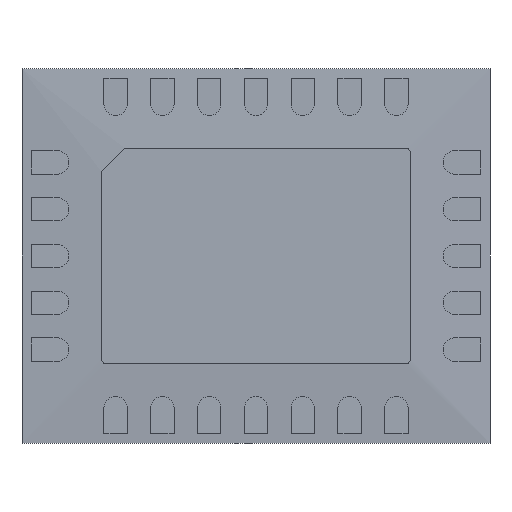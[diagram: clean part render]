
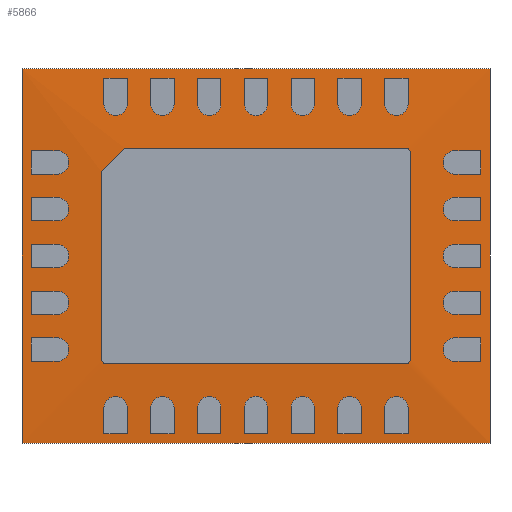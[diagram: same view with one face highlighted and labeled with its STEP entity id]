
A CAD part, front view. The second image highlights one B-rep face of the part: STEP entity #5866.
In plain terms, the highlighted planar face has unit normal (0, -1, 0).
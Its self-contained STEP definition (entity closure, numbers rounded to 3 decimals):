
#5640 = CARTESIAN_POINT ( 'NONE',  ( -2.5, 0.05, -2. ) ) ;
#5641 = VERTEX_POINT ( 'NONE', #5640 ) ;
#5642 = CARTESIAN_POINT ( 'NONE',  ( -2.5, 0.05, 2. ) ) ;
#5643 = VERTEX_POINT ( 'NONE', #5642 ) ;
#5644 = CARTESIAN_POINT ( 'NONE',  ( -2.5, 0.05, 2. ) ) ;
#5645 = DIRECTION ( 'NONE',  ( 0., 0., 1. ) ) ;
#5646 = VECTOR ( 'NONE', #5645, 1000. ) ;
#5647 = LINE ( 'NONE', #5644, #5646 ) ;
#5648 = EDGE_CURVE ( 'NONE', #5641, #5643, #5647, .T. ) ;
#5680 = CARTESIAN_POINT ( 'NONE',  ( 2.5, 0.05, 2. ) ) ;
#5681 = VERTEX_POINT ( 'NONE', #5680 ) ;
#5682 = CARTESIAN_POINT ( 'NONE',  ( 2.5, 0.05, 2. ) ) ;
#5683 = DIRECTION ( 'NONE',  ( 1., 0., 0. ) ) ;
#5684 = VECTOR ( 'NONE', #5683, 1000. ) ;
#5685 = LINE ( 'NONE', #5682, #5684 ) ;
#5686 = EDGE_CURVE ( 'NONE', #5643, #5681, #5685, .T. ) ;
#5711 = CARTESIAN_POINT ( 'NONE',  ( 2.5, 0.05, -2. ) ) ;
#5712 = VERTEX_POINT ( 'NONE', #5711 ) ;
#5713 = CARTESIAN_POINT ( 'NONE',  ( 2.5, 0.05, 2. ) ) ;
#5714 = DIRECTION ( 'NONE',  ( 0., 0., -1. ) ) ;
#5715 = VECTOR ( 'NONE', #5714, 1000. ) ;
#5716 = LINE ( 'NONE', #5713, #5715 ) ;
#5717 = EDGE_CURVE ( 'NONE', #5681, #5712, #5716, .T. ) ;
#5742 = CARTESIAN_POINT ( 'NONE',  ( 2.5, 0.05, -2. ) ) ;
#5743 = DIRECTION ( 'NONE',  ( -1., 0., 0. ) ) ;
#5744 = VECTOR ( 'NONE', #5743, 1000. ) ;
#5745 = LINE ( 'NONE', #5742, #5744 ) ;
#5746 = EDGE_CURVE ( 'NONE', #5712, #5641, #5745, .T. ) ;
#5786 = CARTESIAN_POINT ( 'NONE',  ( 1.65, 0., -1.1 ) ) ;
#5787 = VERTEX_POINT ( 'NONE', #5786 ) ;
#5788 = CARTESIAN_POINT ( 'NONE',  ( 1.65, 0., 1.1 ) ) ;
#5789 = VERTEX_POINT ( 'NONE', #5788 ) ;
#5790 = CARTESIAN_POINT ( 'NONE',  ( 1.65, 0., -1.15 ) ) ;
#5791 = DIRECTION ( 'NONE',  ( 0., 0., 1. ) ) ;
#5792 = VECTOR ( 'NONE', #5791, 1000. ) ;
#5793 = LINE ( 'NONE', #5790, #5792 ) ;
#5794 = EDGE_CURVE ( 'NONE', #5787, #5789, #5793, .T. ) ;
#5795 = ORIENTED_EDGE ( 'NONE', *, *, #5794, .F. ) ;
#5796 = CARTESIAN_POINT ( 'NONE',  ( 1.6, 0., -1.15 ) ) ;
#5797 = VERTEX_POINT ( 'NONE', #5796 ) ;
#5798 = CARTESIAN_POINT ( 'NONE',  ( 1.6, 0., -1.1 ) ) ;
#5799 = DIRECTION ( 'NONE',  ( 0., 1., 0. ) ) ;
#5800 = DIRECTION ( 'NONE',  ( 0., 0., -1. ) ) ;
#5801 = AXIS2_PLACEMENT_3D ( 'NONE', #5798, #5799, #5800 ) ;
#5802 = CIRCLE ( 'NONE', #5801, 0.05) ;
#5803 = EDGE_CURVE ( 'NONE', #5787, #5797, #5802, .T. ) ;
#5804 = ORIENTED_EDGE ( 'NONE', *, *, #5803, .T. ) ;
#5805 = CARTESIAN_POINT ( 'NONE',  ( -1.6, 0., -1.15 ) ) ;
#5806 = VERTEX_POINT ( 'NONE', #5805 ) ;
#5807 = CARTESIAN_POINT ( 'NONE',  ( -1.65, 0., -1.15 ) ) ;
#5808 = DIRECTION ( 'NONE',  ( 1., 0., 0. ) ) ;
#5809 = VECTOR ( 'NONE', #5808, 1000. ) ;
#5810 = LINE ( 'NONE', #5807, #5809 ) ;
#5811 = EDGE_CURVE ( 'NONE', #5806, #5797, #5810, .T. ) ;
#5812 = ORIENTED_EDGE ( 'NONE', *, *, #5811, .F. ) ;
#5813 = CARTESIAN_POINT ( 'NONE',  ( -1.65, 0., -1.1 ) ) ;
#5814 = VERTEX_POINT ( 'NONE', #5813 ) ;
#5815 = CARTESIAN_POINT ( 'NONE',  ( -1.6, 0., -1.1 ) ) ;
#5816 = DIRECTION ( 'NONE',  ( 0., 1., 0. ) ) ;
#5817 = DIRECTION ( 'NONE',  ( 0., 0., -1. ) ) ;
#5818 = AXIS2_PLACEMENT_3D ( 'NONE', #5815, #5816, #5817 ) ;
#5819 = CIRCLE ( 'NONE', #5818, 0.05) ;
#5820 = EDGE_CURVE ( 'NONE', #5806, #5814, #5819, .T. ) ;
#5821 = ORIENTED_EDGE ( 'NONE', *, *, #5820, .T. ) ;
#5822 = CARTESIAN_POINT ( 'NONE',  ( -1.65, 0., 0.9 ) ) ;
#5823 = VERTEX_POINT ( 'NONE', #5822 ) ;
#5824 = CARTESIAN_POINT ( 'NONE',  ( -1.65, 0., -1.15 ) ) ;
#5825 = DIRECTION ( 'NONE',  ( 0., 0., -1. ) ) ;
#5826 = VECTOR ( 'NONE', #5825, 1000. ) ;
#5827 = LINE ( 'NONE', #5824, #5826 ) ;
#5828 = EDGE_CURVE ( 'NONE', #5823, #5814, #5827, .T. ) ;
#5829 = ORIENTED_EDGE ( 'NONE', *, *, #5828, .F. ) ;
#5830 = CARTESIAN_POINT ( 'NONE',  ( -1.4, 0., 1.15 ) ) ;
#5831 = VERTEX_POINT ( 'NONE', #5830 ) ;
#5832 = CARTESIAN_POINT ( 'NONE',  ( -1.65, 0., 0.9 ) ) ;
#5833 = DIRECTION ( 'NONE',  ( 0.707, 0., 0.707 ) ) ;
#5834 = VECTOR ( 'NONE', #5833, 1000. ) ;
#5835 = LINE ( 'NONE', #5832, #5834 ) ;
#5836 = EDGE_CURVE ( 'NONE', #5823, #5831, #5835, .T. ) ;
#5837 = ORIENTED_EDGE ( 'NONE', *, *, #5836, .T. ) ;
#5838 = CARTESIAN_POINT ( 'NONE',  ( 1.6, 0., 1.15 ) ) ;
#5839 = VERTEX_POINT ( 'NONE', #5838 ) ;
#5840 = CARTESIAN_POINT ( 'NONE',  ( -1.65, 0., 1.15 ) ) ;
#5841 = DIRECTION ( 'NONE',  ( -1., 0., 0. ) ) ;
#5842 = VECTOR ( 'NONE', #5841, 1000. ) ;
#5843 = LINE ( 'NONE', #5840, #5842 ) ;
#5844 = EDGE_CURVE ( 'NONE', #5839, #5831, #5843, .T. ) ;
#5845 = ORIENTED_EDGE ( 'NONE', *, *, #5844, .F. ) ;
#5846 = CARTESIAN_POINT ( 'NONE',  ( 1.6, 0., 1.1 ) ) ;
#5847 = DIRECTION ( 'NONE',  ( 0., 1., 0. ) ) ;
#5848 = DIRECTION ( 'NONE',  ( 0., 0., -1. ) ) ;
#5849 = AXIS2_PLACEMENT_3D ( 'NONE', #5846, #5847, #5848 ) ;
#5850 = CIRCLE ( 'NONE', #5849, 0.05) ;
#5851 = EDGE_CURVE ( 'NONE', #5839, #5789, #5850, .T. ) ;
#5852 = ORIENTED_EDGE ( 'NONE', *, *, #5851, .T. ) ;
#5853 = EDGE_LOOP ( 'NONE', ( #5795, #5804, #5812, #5821, #5829, #5837, #5845, #5852 ) ) ;
#5854 = FACE_BOUND ( 'NONE', #5853, .T. ) ;
#5855 = ORIENTED_EDGE ( 'NONE', *, *, #5648, .F. ) ;
#5856 = ORIENTED_EDGE ( 'NONE', *, *, #5746, .F. ) ;
#5857 = ORIENTED_EDGE ( 'NONE', *, *, #5717, .F. ) ;
#5858 = ORIENTED_EDGE ( 'NONE', *, *, #5686, .F. ) ;
#5859 = EDGE_LOOP ( 'NONE', ( #5855, #5856, #5857, #5858 ) ) ;
#5860 = FACE_OUTER_BOUND ( 'NONE', #5859, .T. ) ;
#5861 = CARTESIAN_POINT ( 'NONE',  ( 0., 0.05, 0. ) ) ;
#5862 = DIRECTION ( 'NONE',  ( 0., 1., 0. ) ) ;
#5863 = DIRECTION ( 'NONE',  ( 0., 0., 1. ) ) ;
#5864 = AXIS2_PLACEMENT_3D ( 'NONE', #5861, #5862, #5863 ) ;
#5865 = PLANE ( 'NONE', #5864 ) ;
#5866 = ADVANCED_FACE ( 'NONE', ( #5854, #5860 ), #5865, .F. ) ;
